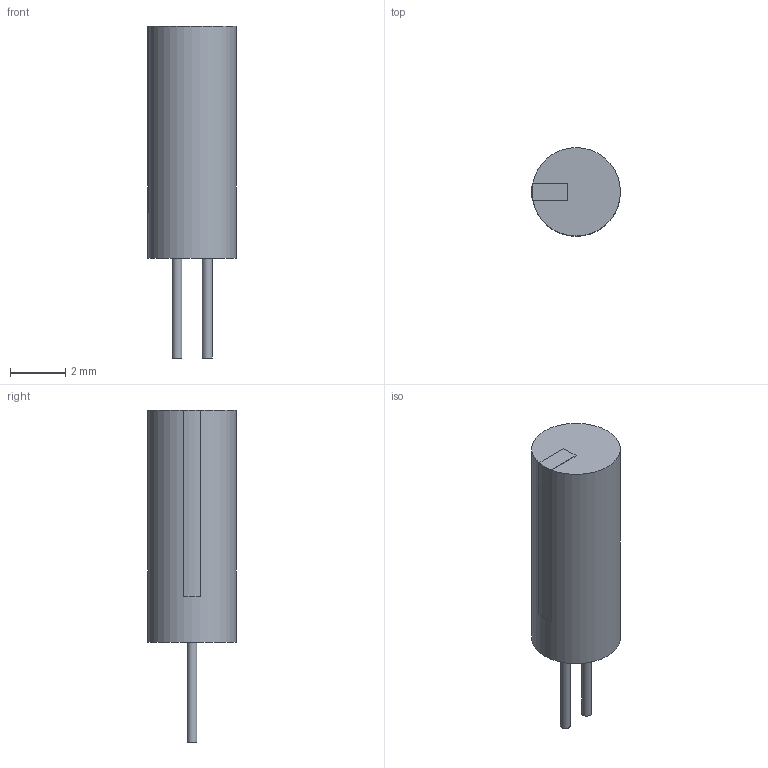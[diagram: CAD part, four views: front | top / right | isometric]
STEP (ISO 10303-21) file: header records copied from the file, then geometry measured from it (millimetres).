
FILE_DESCRIPTION(('STEP AP214'),'1');
FILE_NAME('XTAL_AB38T_ABR','2021-11-28T10:15:31',(''),(''),'','','');
FILE_SCHEMA(('AUTOMOTIVE_DESIGN'));
Length unit declared in the file: millimetre
Products named in the file (1): product
Bounding box: 3.21 x 3.2 x 12.01 mm (x, y, z)
Volume: 68.3 mm3; surface area: 119.3 mm2
Topology: 4 solids, 4 shells, 17 faces, 27 edges, 18 vertices
Faces by surface type: plane 12, cylinder 5
Full cylindrical faces by diameter (mm): 0.356 x2, 3.2 x1
Entity records: 435 total; most frequent: DIRECTION 76, CARTESIAN_POINT 48, ORIENTED_EDGE 48, AXIS2_PLACEMENT_3D 31, EDGE_CURVE 24, EDGE_LOOP 20, VERTEX_POINT 18, ADVANCED_FACE 17
